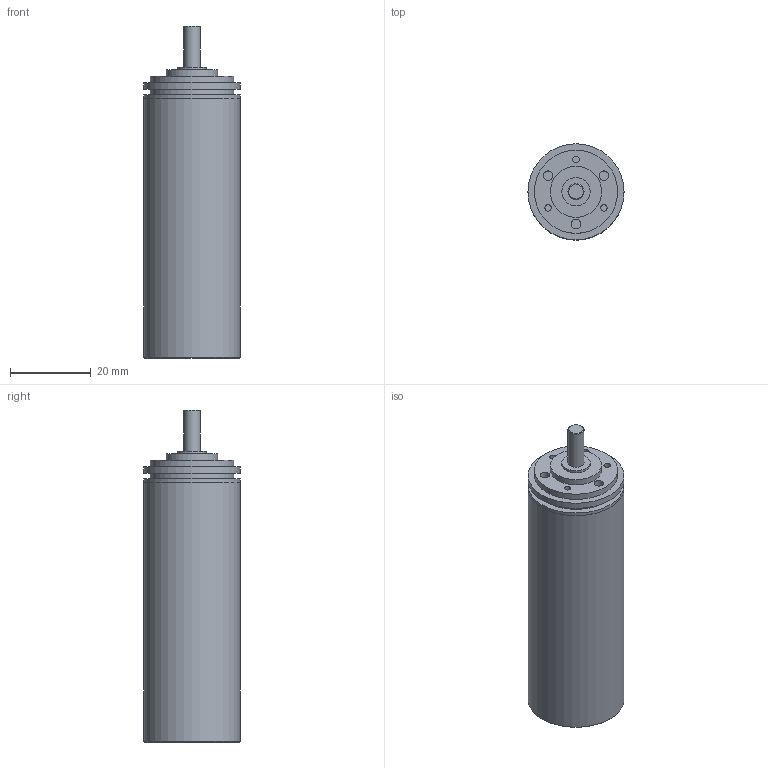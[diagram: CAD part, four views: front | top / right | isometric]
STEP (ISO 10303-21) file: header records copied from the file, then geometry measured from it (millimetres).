
FILE_DESCRIPTION(/* description */ (''),/* implementation_level */ '2;1');
FILE_NAME(/* name */ '22-2_11.stp',/* time_stamp */ '2016-08-26T11:20:51+02:00',/* author */ ('DR. FRITZ FAULHABER GmbH & Co. KG'),/* organization */ ('DR. FRITZ FAULHABER GmbH & Co. KG'),/* preprocessor_version */ 'ST-DEVELOPER v16',/* originating_system */ 'SIEMENS PLM Software NX 10.0',/* authorisation */ '');
FILE_SCHEMA (('AUTOMOTIVE_DESIGN { 1 0 10303 214 3 1 1 1 }'));
Length unit declared in the file: millimetre
Products named in the file (1): H00000867_A
Bounding box: 23.8 x 23.8 x 82.3 mm (x, y, z)
Volume: 23153.3 mm3; surface area: 8180 mm2
Topology: 1 solids, 1 shells, 42 faces, 65 edges, 43 vertices
Faces by surface type: plane 20, cylinder 19, cone 3
Full cylindrical faces by diameter (mm): 1.6 x3, 2.329 x3, 3.5 x1, 4 x1, 4.5 x1, 7 x2, 12.7 x1, 20.63 x2, 22 x1, 23.79 x1, 23.8 x3
Entity records: 858 total; most frequent: DIRECTION 168, CARTESIAN_POINT 125, AXIS2_PLACEMENT_3D 84, EDGE_LOOP 82, ORIENTED_EDGE 82, FACE_BOUND 74, ADVANCED_FACE 42, VERTEX_POINT 41
